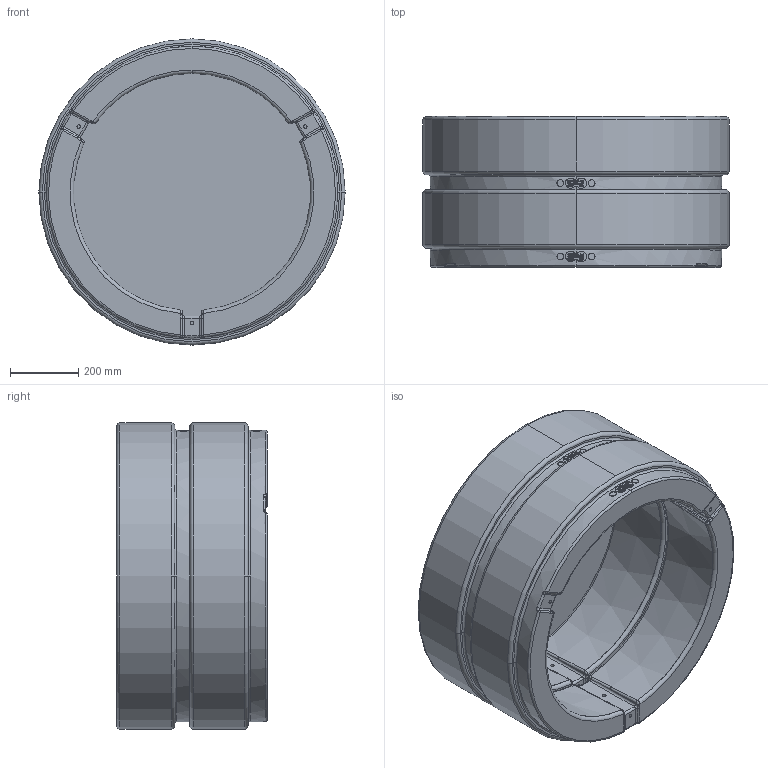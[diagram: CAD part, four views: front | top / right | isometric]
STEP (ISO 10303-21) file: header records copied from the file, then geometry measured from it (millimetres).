
FILE_DESCRIPTION (( 'STEP AP214' ), '1' );
FILE_NAME ('01_solo_hpl_seat_step.STEP', '2025-08-06T14:22:49', ( '' ), ( '' ), 'SwSTEP 2.0', 'SolidWorks 2019', '' );
FILE_SCHEMA (( 'AUTOMOTIVE_DESIGN' ));
Length unit declared in the file: millimetre
Products named in the file (1): 01_solo_hpl_seat_step
Bounding box: 900 x 443.5 x 900 mm (x, y, z)
Surface area: 7337270.1 mm2 (no closed solid volume)
Topology: 0 solids, 7 shells, 3013 faces, 8035 edges, 5296 vertices
Faces by surface type: bspline 1070, plane 996, cylinder 751, torus 160, cone 24, sphere 12
Entity records: 273249 total; most frequent: CARTESIAN_POINT 178367, ORIENTED_EDGE 16046, EDGE_CURVE 8023, DIRECTION 7666, VERTEX_POINT 5296, B_SPLINE_CURVE_WITH_KNOTS 4679, EDGE_LOOP 3299, UNCERTAINTY_MEASURE_WITH_UNIT 3019
